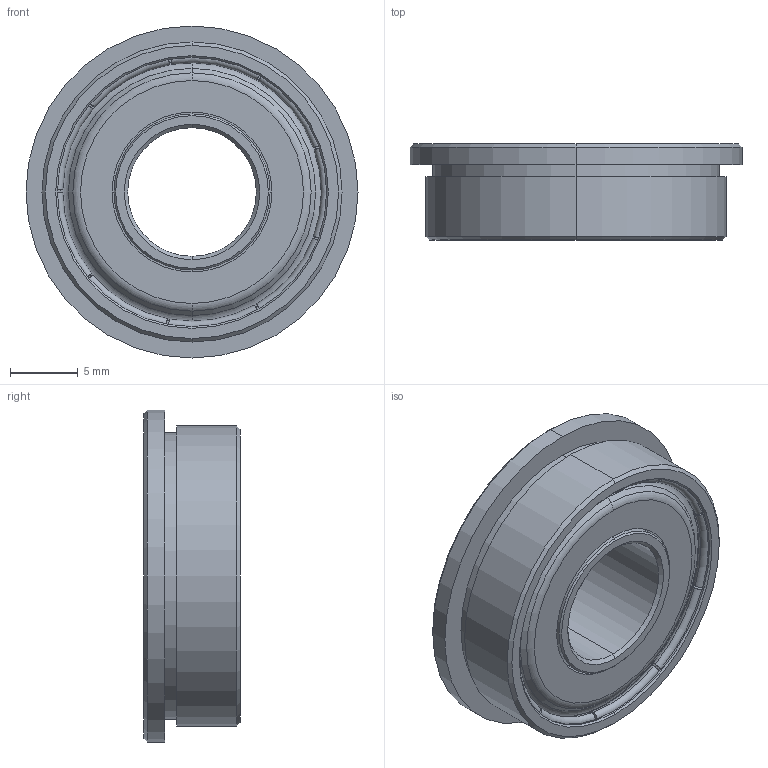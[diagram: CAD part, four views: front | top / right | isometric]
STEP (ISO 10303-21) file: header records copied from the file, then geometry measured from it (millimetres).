
FILE_DESCRIPTION (( 'STEP AP203' ), '1' );
FILE_NAME ('535048.STEP', '2016-10-07T15:18:14', ( '' ), ( '' ), 'SwSTEP 2.0', 'SolidWorks 2014', '' );
FILE_SCHEMA (( 'CONFIG_CONTROL_DESIGN' ));
Length unit declared in the file: inch
Products named in the file (1): 535048
Bounding box: 24.59 x 7.11 x 24.59 mm (x, y, z)
Volume: 2154.4 mm3; surface area: 2346.9 mm2
Topology: 19 solids, 19 shells, 138 faces, 240 edges, 152 vertices
Faces by surface type: plane 50, torus 44, cylinder 24, cone 20
Entity records: 3435 total; most frequent: DIRECTION 714, CARTESIAN_POINT 531, ORIENTED_EDGE 480, AXIS2_PLACEMENT_3D 335, EDGE_CURVE 240, CIRCLE 196, EDGE_LOOP 152, VERTEX_POINT 152
